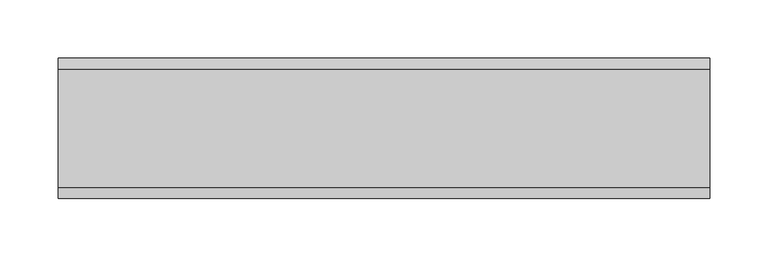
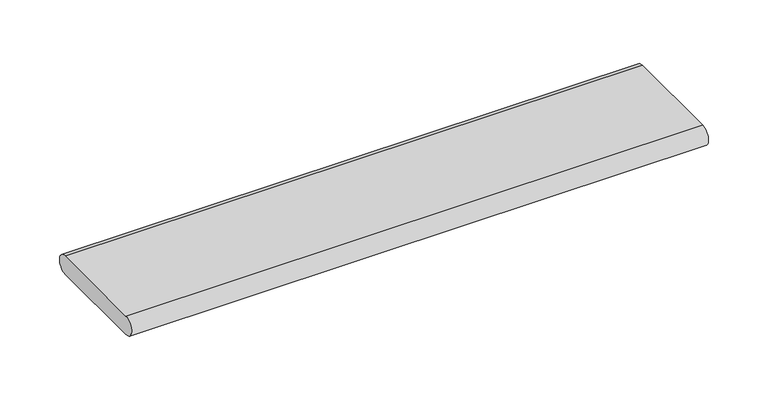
"""IFC4 building model written with IfcOpenShell, lengths in millimetres: furniture geometry, Steelcase - Lighting - Underline Shelf Light : With Daisy Chain Cord and Dimming."""

from ifc_helpers import new_model, si_unit, point, frame, frame_2d, origin, place, context, project, spatial, polyline, circle_curve, trimmed, segment, composite_curve, outline, extrude, source, transform, mapped, element, save


def furniture_18b9b921(model_context):
    return source(origin(), model_context, "Body", "SweptSolid", [
        extrude(outline(composite_curve([segment(polyline([(-111.2915923, 1277.9590928), (-9.4029806, 1277.9590928)]), True, "CONTINUOUS"), segment(trimmed(circle_curve(frame_2d((-9.4029806, 1268.5058464)), 9.4532464), [point((-9.4029806, 1277.9590928))], [point((-9.4029806, 1259.0526))], False, "CARTESIAN"), True, "CONTINUOUS"), segment(polyline([(-9.4029806, 1259.0526), (-111.2915923, 1259.0526)]), True, "CONTINUOUS"), segment(trimmed(circle_curve(frame_2d((-111.2915923, 1268.5058464)), 9.4532464), [point((-111.2915923, 1259.0526))], [point((-111.2915923, 1277.9590928))], False, "CARTESIAN"), True, "CONTINUOUS")], self_intersect=False)), frame((0.0, 0.0, 0.0), z_axis=(1.0, 0.0, 0.0), x_axis=(0.0, 1.0, 0.0)), (0.0, 0.0, 1.0), 558.8002245),
        extrude(outline(composite_curve([segment(polyline([(28.1428134, -10.2163662), (530.6564175, -10.2163662)]), True, "CONTINUOUS"), segment(trimmed(circle_curve(frame_2d((530.6564175, -16.1345733)), 5.9182071), [point((530.6564175, -10.2163662))], [point((536.5746245, -16.1345733))], False, "CARTESIAN"), True, "CONTINUOUS"), segment(polyline([(536.5746245, -16.1345733), (536.5746245, -77.3231644)]), True, "CONTINUOUS"), segment(trimmed(circle_curve(frame_2d((530.6564243, -77.3231644)), 5.9182003), [point((536.5746245, -77.3231644))], [point((530.6564243, -83.2413647))], False, "CARTESIAN"), True, "CONTINUOUS"), segment(polyline([(530.6564243, -83.2413647), (28.1428248, -83.2413647)]), True, "CONTINUOUS"), segment(trimmed(circle_curve(frame_2d((28.1428248, -77.3231644)), 5.9182003), [point((28.1428248, -83.2413647))], [point((22.2246245, -77.3231644))], False, "CARTESIAN"), True, "CONTINUOUS"), segment(polyline([(22.2246245, -77.3231644), (22.2246245, -16.1345551)]), True, "CONTINUOUS"), segment(trimmed(circle_curve(frame_2d((28.1428134, -16.1345551)), 5.9181889), [point((22.2246245, -16.1345551))], [point((28.1428134, -10.2163662))], False, "CARTESIAN"), True, "CONTINUOUS")], self_intersect=False)), frame((0.0, 0.0, 1258.9120023), z_axis=(0.0, 0.0, 1.0), x_axis=(1.0, 0.0, 0.0)), (0.0, 0.0, 1.0), 6.3508837),
    ])


if __name__ == "__main__":
    model = new_model("IFC4")
    model_context = context("Model", 3, world=origin())
    ifc_project = project(units=[si_unit("LENGTHUNIT", "METRE", prefix="MILLI")], contexts=[model_context])
    site = spatial("IfcSite", under=ifc_project)
    building = spatial("IfcBuilding", under=site)
    placement = place(None, origin())
    furniture_shape = furniture_18b9b921(model_context)
    element("IfcFurniture", 1, ObjectType="Steelcase - Lighting - Underline Shelf Light : With Daisy Chain Cord and Dimming", at=placement, inside=building, context=model_context, shape_type="MappedRepresentation", body=[
        mapped(furniture_shape, transform((0.0, 0.0, 0.0), x_axis=(1.0, 0.0, 0.0), y_axis=(0.0, 1.0, 0.0), z_axis=(0.0, 0.0, 1.0))),
    ])
    save(model, "model.ifc")
